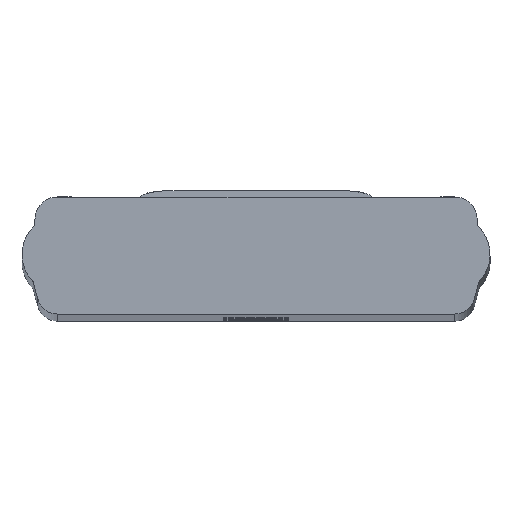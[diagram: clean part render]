
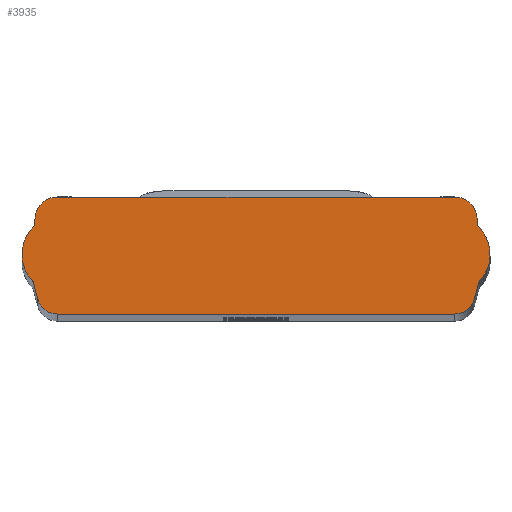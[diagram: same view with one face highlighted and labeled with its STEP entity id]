
A CAD part, top view. The second image highlights one B-rep face of the part: STEP entity #3935.
In plain terms, the highlighted planar face has unit normal (0, 0, 1).
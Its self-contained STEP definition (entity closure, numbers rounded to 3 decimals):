
#39 = CIRCLE ( 'NONE', #1619, 0.45 ) ;
#42 = CIRCLE ( 'NONE', #1620, 3.78 ) ;
#65 = CIRCLE ( 'NONE', #1623, 2.18 ) ;
#79 = LINE ( 'NONE', #2099, #84 ) ;
#84 = VECTOR ( 'NONE', #2349, 1000. ) ;
#204 = CIRCLE ( 'NONE', #1664, 2.18 ) ;
#515 = FACE_OUTER_BOUND ( 'NONE', #4267, .T. ) ;
#638 = CIRCLE ( 'NONE', #1908, 0.45 ) ;
#695 = CIRCLE ( 'NONE', #1921, 0.45 ) ;
#714 = LINE ( 'NONE', #5622, #717 ) ;
#717 = VECTOR ( 'NONE', #5470, 1000. ) ;
#813 = CIRCLE ( 'NONE', #1954, 2. ) ;
#818 = LINE ( 'NONE', #1363, #820 ) ;
#820 = VECTOR ( 'NONE', #1245, 1000. ) ;
#842 = CIRCLE ( 'NONE', #1962, 2. ) ;
#916 = CIRCLE ( 'NONE', #1986, 0.45 ) ;
#1020 = CIRCLE ( 'NONE', #2011, 3.78 ) ;
#1117 = LINE ( 'NONE', #2559, #1120 ) ;
#1120 = VECTOR ( 'NONE', #2605, 1000. ) ;
#1177 = DIRECTION ( 'NONE',  ( 0., 0., 1. ) ) ;
#1242 = DIRECTION ( 'NONE',  ( 1., 0., 0. ) ) ;
#1245 = DIRECTION ( 'NONE',  ( 0.259, 0.966, 0. ) ) ;
#1269 = DIRECTION ( 'NONE',  ( 0., 0., 1. ) ) ;
#1316 = CARTESIAN_POINT ( 'NONE',  ( -19.336, 2., 398. ) ) ;
#1348 = DIRECTION ( 'NONE',  ( 1., 0., 0. ) ) ;
#1363 = CARTESIAN_POINT ( 'NONE',  ( 21.268, 1.482, 398. ) ) ;
#1365 = CARTESIAN_POINT ( 'NONE',  ( 19.336, 2., 398. ) ) ;
#1392 = EDGE_CURVE ( 'NONE', #6277, #6300, #5114, .T. ) ;
#1397 = EDGE_CURVE ( 'NONE', #6364, #6566, #5058, .T. ) ;
#1402 = EDGE_CURVE ( 'NONE', #6281, #6269, #5062, .T. ) ;
#1479 = EDGE_CURVE ( 'NONE', #6386, #6314, #39, .T. ) ;
#1482 = EDGE_CURVE ( 'NONE', #6375, #6386, #42, .T. ) ;
#1495 = EDGE_CURVE ( 'NONE', #6253, #6232, #65, .T. ) ;
#1506 = EDGE_CURVE ( 'NONE', #6314, #6253, #79, .T. ) ;
#1586 = EDGE_CURVE ( 'NONE', #6339, #6260, #204, .T. ) ;
#1594 = AXIS2_PLACEMENT_3D ( 'NONE', #5020, #5088, #5097 ) ;
#1619 = AXIS2_PLACEMENT_3D ( 'NONE', #2277, #2263, #2262 ) ;
#1620 = AXIS2_PLACEMENT_3D ( 'NONE', #2411, #2410, #2428 ) ;
#1623 = AXIS2_PLACEMENT_3D ( 'NONE', #2432, #2433, #2471 ) ;
#1664 = AXIS2_PLACEMENT_3D ( 'NONE', #2315, #2297, #2296 ) ;
#1864 = AXIS2_PLACEMENT_3D ( 'NONE', #2908, #2862, #2861 ) ;
#1908 = AXIS2_PLACEMENT_3D ( 'NONE', #5600, #5508, #5584 ) ;
#1921 = AXIS2_PLACEMENT_3D ( 'NONE', #5492, #5558, #5489 ) ;
#1954 = AXIS2_PLACEMENT_3D ( 'NONE', #1365, #1177, #1348 ) ;
#1962 = AXIS2_PLACEMENT_3D ( 'NONE', #1316, #1269, #1242 ) ;
#1986 = AXIS2_PLACEMENT_3D ( 'NONE', #4513, #4510, #4503 ) ;
#2011 = AXIS2_PLACEMENT_3D ( 'NONE', #5853, #5849, #5846 ) ;
#2099 = CARTESIAN_POINT ( 'NONE',  ( 21.53, 8.82, 398. ) ) ;
#2262 = DIRECTION ( 'NONE',  ( 1., 0., 0. ) ) ;
#2263 = DIRECTION ( 'NONE',  ( 0., 0., -1. ) ) ;
#2277 = CARTESIAN_POINT ( 'NONE',  ( 21.98, 8.82, 398. ) ) ;
#2296 = DIRECTION ( 'NONE',  ( 1., 0., 0. ) ) ;
#2297 = DIRECTION ( 'NONE',  ( 0., 0., 1. ) ) ;
#2315 = CARTESIAN_POINT ( 'NONE',  ( -19.35, 9.22, 398. ) ) ;
#2349 = DIRECTION ( 'NONE',  ( 0., 1., 0. ) ) ;
#2410 = DIRECTION ( 'NONE',  ( 0., 0., 1. ) ) ;
#2411 = CARTESIAN_POINT ( 'NONE',  ( 19.01, 5.808, 398. ) ) ;
#2428 = DIRECTION ( 'NONE',  ( 1., 0., 0. ) ) ;
#2432 = CARTESIAN_POINT ( 'NONE',  ( 19.35, 9.22, 398. ) ) ;
#2433 = DIRECTION ( 'NONE',  ( 0., 0., 1. ) ) ;
#2471 = DIRECTION ( 'NONE',  ( 1., 0., 0. ) ) ;
#2559 = CARTESIAN_POINT ( 'NONE',  ( -19.5, 11.395, 398. ) ) ;
#2605 = DIRECTION ( 'NONE',  ( 1., 0., 0. ) ) ;
#2861 = DIRECTION ( 'NONE',  ( 1., 0., 0. ) ) ;
#2862 = DIRECTION ( 'NONE',  ( 0., 0., 1. ) ) ;
#2863 = PLANE ( 'NONE',  #1864 ) ;
#2908 = CARTESIAN_POINT ( 'NONE',  ( -19.35, 9.22, 398. ) ) ;
#3935 = ADVANCED_FACE ( 'NONE', ( #515 ), #2863, .T. ) ;
#4006 = EDGE_CURVE ( 'NONE', #6238, #6375, #638, .T. ) ;
#4019 = ORIENTED_EDGE ( 'NONE', *, *, #4847, .T. ) ;
#4023 = ORIENTED_EDGE ( 'NONE', *, *, #7128, .F. ) ;
#4059 = ORIENTED_EDGE ( 'NONE', *, *, #4756, .T. ) ;
#4096 = ORIENTED_EDGE ( 'NONE', *, *, #1392, .T. ) ;
#4101 = ORIENTED_EDGE ( 'NONE', *, *, #4748, .T. ) ;
#4267 = EDGE_LOOP ( 'NONE', ( #4023, #6081, #4059, #4304, #4329, #4369, #4101, #6177, #4347, #4096, #4019, #6105, #6133, #6033, #5990, #6047, #6175 ) ) ;
#4304 = ORIENTED_EDGE ( 'NONE', *, *, #4918, .T. ) ;
#4329 = ORIENTED_EDGE ( 'NONE', *, *, #1397, .T. ) ;
#4347 = ORIENTED_EDGE ( 'NONE', *, *, #4864, .T. ) ;
#4369 = ORIENTED_EDGE ( 'NONE', *, *, #5938, .T. ) ;
#4503 = DIRECTION ( 'NONE',  ( 1., 0., 0. ) ) ;
#4510 = DIRECTION ( 'NONE',  ( 0., 0., -1. ) ) ;
#4513 = CARTESIAN_POINT ( 'NONE',  ( -21.98, 8.82, 398. ) ) ;
#4748 = EDGE_CURVE ( 'NONE', #6514, #6281, #695, .T. ) ;
#4756 = EDGE_CURVE ( 'NONE', #6260, #6265, #714, .T. ) ;
#4847 = EDGE_CURVE ( 'NONE', #6300, #6282, #813, .T. ) ;
#4848 = EDGE_CURVE ( 'NONE', #6282, #6238, #818, .T. ) ;
#4864 = EDGE_CURVE ( 'NONE', #6269, #6277, #842, .T. ) ;
#4918 = EDGE_CURVE ( 'NONE', #6265, #6364, #916, .T. ) ;
#4975 = VECTOR ( 'NONE', #5087, 1000. ) ;
#4976 = CARTESIAN_POINT ( 'NONE',  ( -21.268, 1.482, 398. ) ) ;
#5020 = CARTESIAN_POINT ( 'NONE',  ( -19.01, 5.808, 398. ) ) ;
#5058 = CIRCLE ( 'NONE', #1594, 3.78 ) ;
#5062 = LINE ( 'NONE', #4976, #4975 ) ;
#5063 = VECTOR ( 'NONE', #5095, 1000. ) ;
#5087 = DIRECTION ( 'NONE',  ( 0.259, -0.966, 0. ) ) ;
#5088 = DIRECTION ( 'NONE',  ( 0., 0., 1. ) ) ;
#5095 = DIRECTION ( 'NONE',  ( 1., 0., 0. ) ) ;
#5097 = DIRECTION ( 'NONE',  ( 1., 0., 0. ) ) ;
#5100 = CARTESIAN_POINT ( 'NONE',  ( 19.336, 0., 398. ) ) ;
#5114 = LINE ( 'NONE', #5100, #5063 ) ;
#5175 = CARTESIAN_POINT ( 'NONE',  ( -22.79, 5.808, 398. ) ) ;
#5199 = CARTESIAN_POINT ( 'NONE',  ( -21.664, 8.499, 398. ) ) ;
#5208 = CARTESIAN_POINT ( 'NONE',  ( -19.5, 11.395, 398. ) ) ;
#5215 = CARTESIAN_POINT ( 'NONE',  ( 21.795, 3.252, 398. ) ) ;
#5283 = CARTESIAN_POINT ( 'NONE',  ( 21.664, 8.499, 398. ) ) ;
#5393 = CARTESIAN_POINT ( 'NONE',  ( -21.795, 3.252, 398. ) ) ;
#5431 = CARTESIAN_POINT ( 'NONE',  ( 21.53, 8.82, 398. ) ) ;
#5470 = DIRECTION ( 'NONE',  ( 0., -1., 0. ) ) ;
#5489 = DIRECTION ( 'NONE',  ( 1., 0., 0. ) ) ;
#5492 = CARTESIAN_POINT ( 'NONE',  ( -22.127, 2.948, 398. ) ) ;
#5508 = DIRECTION ( 'NONE',  ( 0., 0., -1. ) ) ;
#5558 = DIRECTION ( 'NONE',  ( 0., 0., -1. ) ) ;
#5584 = DIRECTION ( 'NONE',  ( 1., 0., 0. ) ) ;
#5600 = CARTESIAN_POINT ( 'NONE',  ( 22.127, 2.948, 398. ) ) ;
#5622 = CARTESIAN_POINT ( 'NONE',  ( -21.53, 8.82, 398. ) ) ;
#5725 = CARTESIAN_POINT ( 'NONE',  ( 21.53, 9.22, 398. ) ) ;
#5742 = CARTESIAN_POINT ( 'NONE',  ( 19.5, 11.395, 398. ) ) ;
#5747 = CARTESIAN_POINT ( 'NONE',  ( 21.692, 3.064, 398. ) ) ;
#5774 = CARTESIAN_POINT ( 'NONE',  ( -21.53, 9.22, 398. ) ) ;
#5784 = CARTESIAN_POINT ( 'NONE',  ( -19.336, 0., 398. ) ) ;
#5792 = CARTESIAN_POINT ( 'NONE',  ( -21.268, 1.482, 398. ) ) ;
#5798 = CARTESIAN_POINT ( 'NONE',  ( -21.53, 8.82, 398. ) ) ;
#5821 = CARTESIAN_POINT ( 'NONE',  ( 21.268, 1.482, 398. ) ) ;
#5834 = CARTESIAN_POINT ( 'NONE',  ( -21.692, 3.064, 398. ) ) ;
#5842 = CARTESIAN_POINT ( 'NONE',  ( 19.336, 0., 398. ) ) ;
#5846 = DIRECTION ( 'NONE',  ( 1., 0., 0. ) ) ;
#5849 = DIRECTION ( 'NONE',  ( 0., 0., 1. ) ) ;
#5853 = CARTESIAN_POINT ( 'NONE',  ( -19.01, 5.808, 398. ) ) ;
#5938 = EDGE_CURVE ( 'NONE', #6566, #6514, #1020, .T. ) ;
#5990 = ORIENTED_EDGE ( 'NONE', *, *, #1479, .T. ) ;
#6033 = ORIENTED_EDGE ( 'NONE', *, *, #1482, .T. ) ;
#6047 = ORIENTED_EDGE ( 'NONE', *, *, #1506, .T. ) ;
#6081 = ORIENTED_EDGE ( 'NONE', *, *, #1586, .T. ) ;
#6105 = ORIENTED_EDGE ( 'NONE', *, *, #4848, .T. ) ;
#6133 = ORIENTED_EDGE ( 'NONE', *, *, #4006, .T. ) ;
#6175 = ORIENTED_EDGE ( 'NONE', *, *, #1495, .T. ) ;
#6177 = ORIENTED_EDGE ( 'NONE', *, *, #1402, .T. ) ;
#6232 = VERTEX_POINT ( 'NONE', #5742 ) ;
#6238 = VERTEX_POINT ( 'NONE', #5747 ) ;
#6253 = VERTEX_POINT ( 'NONE', #5725 ) ;
#6260 = VERTEX_POINT ( 'NONE', #5774 ) ;
#6265 = VERTEX_POINT ( 'NONE', #5798 ) ;
#6269 = VERTEX_POINT ( 'NONE', #5792 ) ;
#6277 = VERTEX_POINT ( 'NONE', #5784 ) ;
#6281 = VERTEX_POINT ( 'NONE', #5834 ) ;
#6282 = VERTEX_POINT ( 'NONE', #5821 ) ;
#6300 = VERTEX_POINT ( 'NONE', #5842 ) ;
#6314 = VERTEX_POINT ( 'NONE', #5431 ) ;
#6339 = VERTEX_POINT ( 'NONE', #5208 ) ;
#6364 = VERTEX_POINT ( 'NONE', #5199 ) ;
#6375 = VERTEX_POINT ( 'NONE', #5215 ) ;
#6386 = VERTEX_POINT ( 'NONE', #5283 ) ;
#6514 = VERTEX_POINT ( 'NONE', #5393 ) ;
#6566 = VERTEX_POINT ( 'NONE', #5175 ) ;
#7128 = EDGE_CURVE ( 'NONE', #6339, #6232, #1117, .T. ) ;
